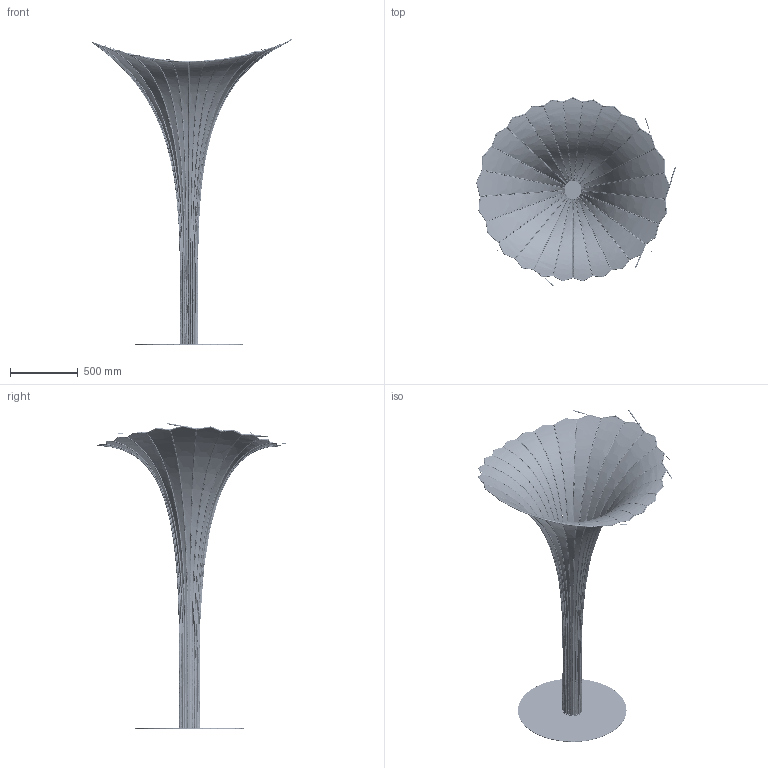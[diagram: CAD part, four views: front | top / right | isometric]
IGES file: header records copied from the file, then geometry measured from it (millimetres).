
Start section:  Autodesk DirectConnect version 8.0.53.0 ---- IGES version 5.3
Global section: file name: C:\Users\UsuarioJavier\Desktop\Laura\DESCARGAS\WEB\DESCOMPRIMIDOS\arturo-alvarez_2D-3D_AF03\AF03 - 3D.igs; native system: Autodesk DirectConnect 8.0.53.0; preprocessor: 8.0.53.0; author: UsuarioLaura; organization: Unknown; date: 20150202.110051; units: millimetre
Bounding box: 1470.76 x 1393.37 x 2252.57 mm (x, y, z)
Surface area: 10370641.7 mm2 (no closed solid volume)
Topology: 0 solids, 0 shells, 1029 faces, 20196 edges, 20014 vertices
Faces by surface type: bspline 1029
